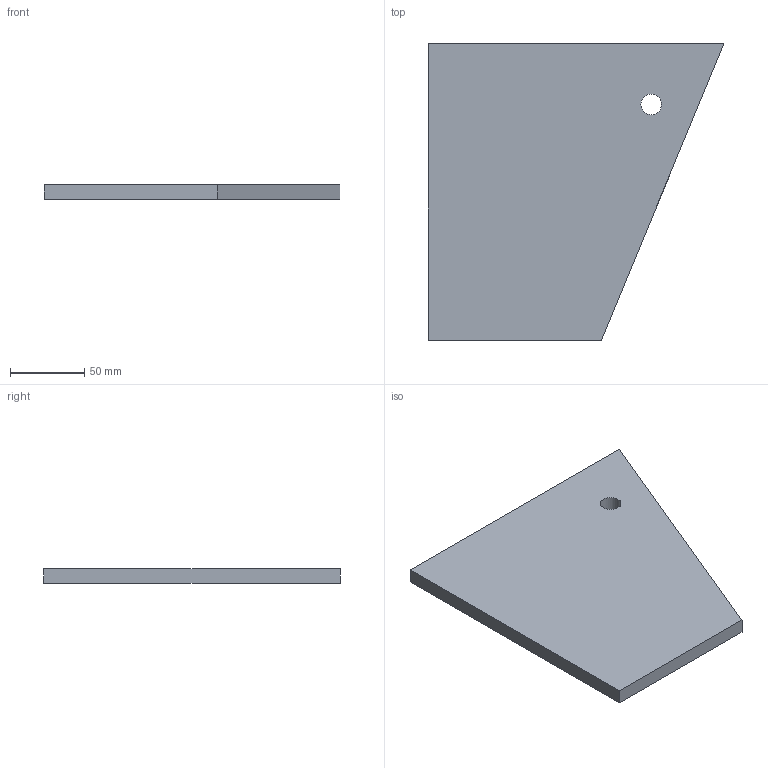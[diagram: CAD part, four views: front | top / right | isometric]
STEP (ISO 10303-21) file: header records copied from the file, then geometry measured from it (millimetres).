
FILE_DESCRIPTION(/* description */ (''),/* implementation_level */ '2;1');
FILE_NAME(/* name */ 'Pos105-Brede Strip 10x200-S235JRG2-2st',/* time_stamp */ '2024-08-06T11:42:42+02:00',/* author */ (''),/* organization */ (''),/* preprocessor_version */ 'ST-DEVELOPER v16.5',/* originating_system */ 'HiCAD 2024 2901.2 Build 361',/* authorisation */ '');
FILE_SCHEMA (('AUTOMOTIVE_DESIGN { 1 0 10303 214 1 1 1 1 }'));
Length unit declared in the file: millimetre
Products named in the file (1): Pos105-Brede Strip 10x200-S235JRG2-2st
Bounding box: 199.84 x 200 x 10 mm (x, y, z)
Volume: 315302.2 mm3; surface area: 70833.5 mm2
Topology: 1 solids, 1 shells, 7 faces, 16 edges, 11 vertices
Faces by surface type: plane 6, cylinder 1
Full cylindrical faces by diameter (mm): 14 x1
Entity records: 348 total; most frequent: CARTESIAN_POINT 31, DIRECTION 30, PRESENTATION_STYLE_ASSIGNMENT 29, COLOUR_RGB 29, DRAUGHTING_PRE_DEFINED_CURVE_FONT 28, CURVE_STYLE 28, OVER_RIDING_STYLED_ITEM 28, ORIENTED_EDGE 28
